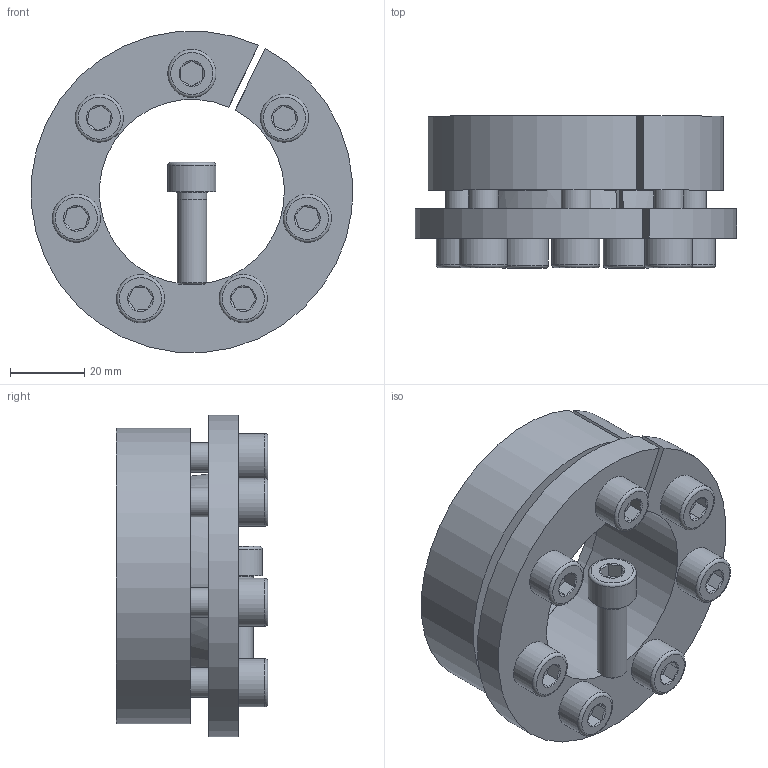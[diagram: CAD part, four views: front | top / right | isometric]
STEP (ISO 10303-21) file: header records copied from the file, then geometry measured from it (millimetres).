
FILE_DESCRIPTION( ( 'Unknown' ), '1' );
FILE_NAME( 'C:/Dokumente und Einstellungen/Sven/Desktop/15/KBS 15 - 50 x 80.stp', 'Unknown', ( 'Unknown' ), ( 'Unknown' ), 'XStep 1.0', 'Unknown', ' ' );
FILE_SCHEMA( ( 'automotive_design' ) );
Length unit declared in the file: millimetre
Products named in the file (3): Assem1; ISO EN DIN 4762 M8x25_27; KBS 15 - 50 x 80_0
Bounding box: 86.78 x 41 x 86.75 mm (x, y, z)
Volume: 188574 mm3; surface area: 71302.8 mm2
Topology: 10 solids, 10 shells, 252 faces, 538 edges, 324 vertices
Faces by surface type: plane 110, cylinder 66, cone 60, torus 16
Full cylindrical faces by diameter (mm): 6.647 x14, 7 x8, 8 x16, 9 x14, 13 x8
Entity records: 1734 total; most frequent: DIRECTION 276, CARTESIAN_POINT 273, ORIENTED_EDGE 200, AXIS2_PLACEMENT_3D 122, EDGE_CURVE 100, EDGE_LOOP 97, FACE_OUTER_BOUND 71, VERTEX_POINT 71
